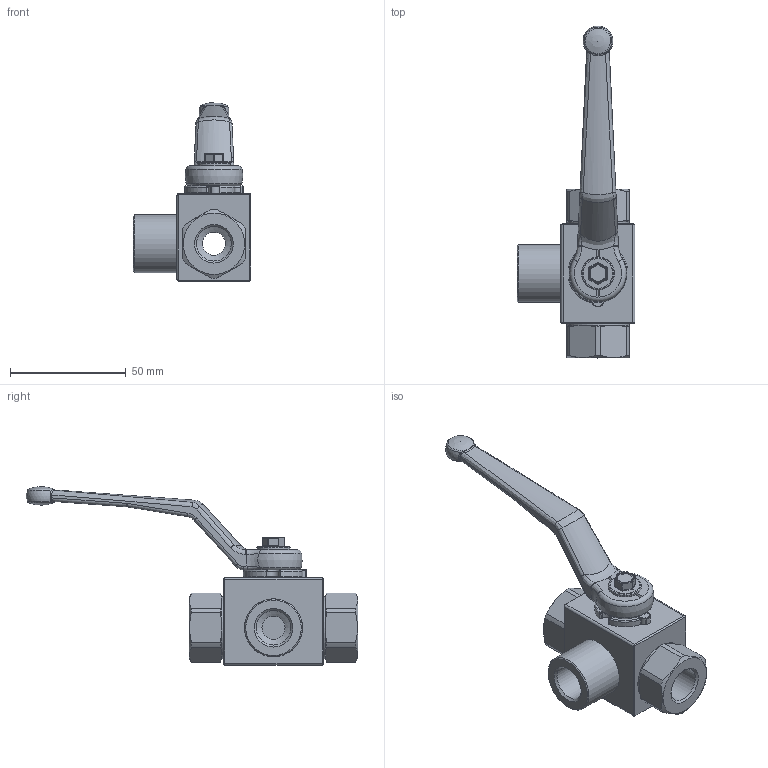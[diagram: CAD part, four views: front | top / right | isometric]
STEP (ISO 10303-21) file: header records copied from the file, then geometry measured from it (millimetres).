
FILE_DESCRIPTION( ( 'Unknown' ), '1' );
FILE_NAME( 'H:/PISTER/3D-MODELLE/BK3 stp/BK3 DN10 G3_8.stp', 'Unknown', ( 'Unknown' ), ( 'Unknown' ), 'PSStep 14.0', 'Unknown', ' ' );
FILE_SCHEMA( ( 'AUTOMOTIVE_DESIGN { 1 0 10303 214 1 1 1 1 }' ) );
Length unit declared in the file: millimetre
Products named in the file (10): Assem1; 03-010-002-oa3; 04-010-100-oa4; 06-010-104-oa9; 09-09-002; 58-28740-07-oa10; Griff_SW9; 58-0933-133; 01-010-046-oa11; 04-010-090-oa12
Assembly tree (9 placements, depth 2):
  Assem1
    03-010-002-oa3
    04-010-100-oa4
    06-010-104-oa9
    09-09-002
    58-28740-07-oa10
    Griff_SW9
    58-0933-133
    01-010-046-oa11
    04-010-090-oa12
Bounding box: 51 x 143.5 x 77.3 mm (x, y, z)
Volume: 41274.6 mm3; surface area: 30247.2 mm2
Topology: 9 solids, 9 shells, 374 faces, 928 edges, 557 vertices
Faces by surface type: cylinder 126, plane 120, bspline 42, torus 37, cone 29, sphere 20
Full cylindrical faces by diameter (mm): 4.2 x1, 4.98 x1, 5 x1, 10 x2, 14 x2, 14.3 x1, 14.95 x3, 25 x4, 25.1 x1, 27 x2, 27.5 x2
Entity records: 15370 total; most frequent: CARTESIAN_POINT 3959, DIRECTION 1795, ORIENTED_EDGE 1668, EDGE_CURVE 834, AXIS2_PLACEMENT_3D 729, VERTEX_POINT 530, EDGE_LOOP 446, FACE_OUTER_BOUND 403
